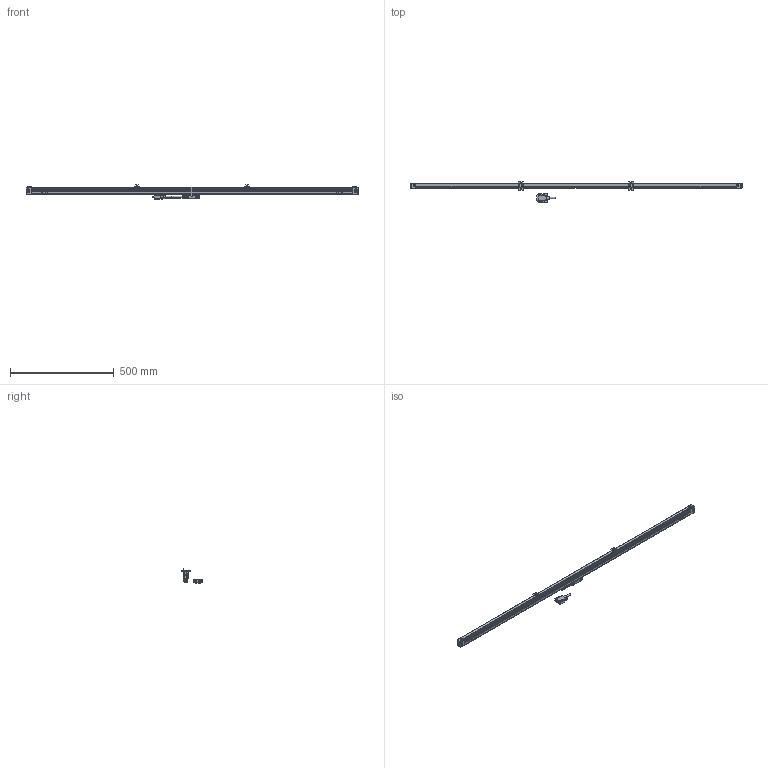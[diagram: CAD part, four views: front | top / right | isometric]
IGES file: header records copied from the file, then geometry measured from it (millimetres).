
Start section: Elysium IGES Interface
Global section: file name: 89H\\Utsu119s\kiyo_cad\data\3D\AT715\HP掲載用_201710\ﾓﾃﾞﾙ修正後_IGES\AT715-1400_営業送付.igs; native system: Creo Elements/Direct Modeling 18.1B  29-Sep-2012; preprocessor: Creo Element/Direct IGES_3D V2.2; author: Unknown; organization: Unknown; date: 20181220.145029; units: millimetre
Bounding box: 1598 x 99 x 68.35 mm (x, y, z)
Volume: 3439192 mm3; surface area: 717614.7 mm2
Topology: 5 solids, 10 shells, 1695 faces, 4444 edges, 2805 vertices
Faces by surface type: bspline 1695
